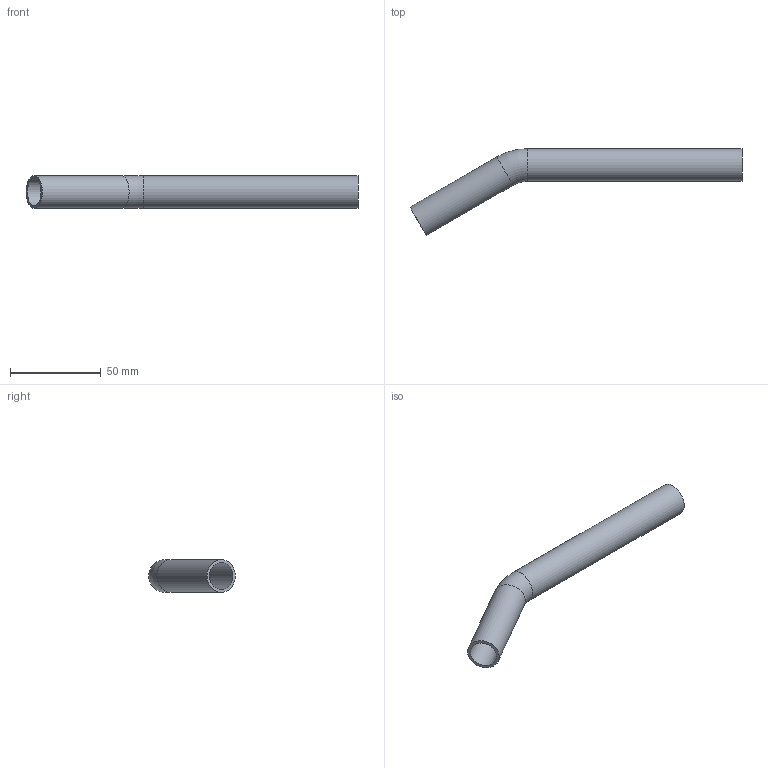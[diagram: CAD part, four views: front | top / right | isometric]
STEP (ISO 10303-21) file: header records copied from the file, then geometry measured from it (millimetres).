
FILE_DESCRIPTION((''),'2;1');
FILE_NAME('G:\Technics\CAD\Bauteile\018\6904418(1).stp','2008-01-31T09:28:51',('herberg'),(''),'Autodesk Inventor 2008','Autodesk Inventor 2008','');
FILE_SCHEMA(('AUTOMOTIVE_DESIGN { 1 0 10303 214 1 1 1 1 }'));
Length unit declared in the file: millimetre
Products named in the file (1): 6904418(1)
Bounding box: 183.19 x 47.79 x 18 mm (x, y, z)
Volume: 14516.2 mm3; surface area: 19510.4 mm2
Topology: 1 solids, 1 shells, 8 faces, 14 edges, 8 vertices
Faces by surface type: cylinder 4, torus 2, plane 2
Full cylindrical faces by diameter (mm): 15 x2, 18 x2
Entity records: 194 total; most frequent: DIRECTION 34, CARTESIAN_POINT 25, AXIS2_PLACEMENT_3D 17, ORIENTED_EDGE 16, EDGE_LOOP 16, VERTEX_POINT 8, CIRCLE 8, EDGE_CURVE 8
